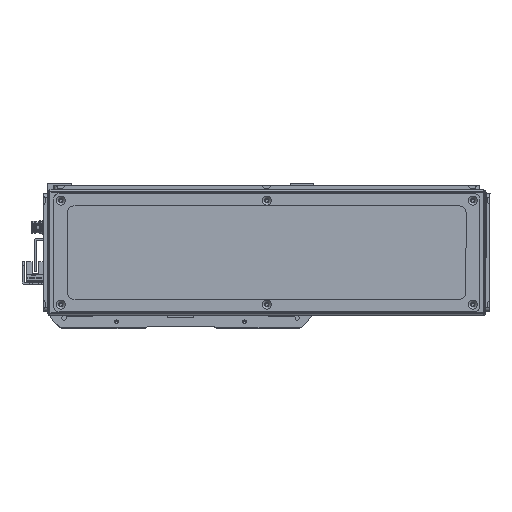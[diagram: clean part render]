
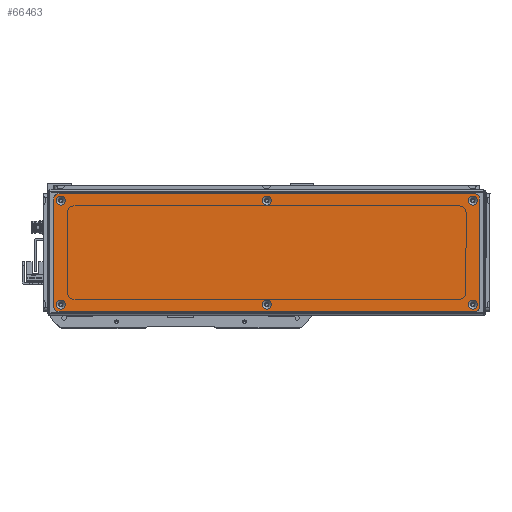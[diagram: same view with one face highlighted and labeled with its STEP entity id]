
A CAD part, front view. The second image highlights one B-rep face of the part: STEP entity #66463.
In plain terms, the highlighted planar face has unit normal (0, -1, 0).
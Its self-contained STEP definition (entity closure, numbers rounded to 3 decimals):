
#2917=FACE_BOUND('',#11347,.T.);
#2918=FACE_BOUND('',#11348,.T.);
#2919=FACE_BOUND('',#11349,.T.);
#2920=FACE_BOUND('',#11350,.T.);
#2921=FACE_BOUND('',#11351,.T.);
#2922=FACE_BOUND('',#11352,.T.);
#4227=CIRCLE('',#71481,3.45);
#4230=CIRCLE('',#71486,3.45);
#4233=CIRCLE('',#71491,3.45);
#4236=CIRCLE('',#71496,3.45);
#4239=CIRCLE('',#71501,3.45);
#4242=CIRCLE('',#71506,3.45);
#4245=CIRCLE('',#71511,3.);
#4247=CIRCLE('',#71514,3.);
#4248=CIRCLE('',#71515,3.);
#4249=CIRCLE('',#71516,3.);
#7540=FACE_OUTER_BOUND('',#11346,.T.);
#11346=EDGE_LOOP('',(#59217,#59218,#59219,#59220,#59221,#59222,#59223,#59224));
#11347=EDGE_LOOP('',(#59225));
#11348=EDGE_LOOP('',(#59226));
#11349=EDGE_LOOP('',(#59227));
#11350=EDGE_LOOP('',(#59228));
#11351=EDGE_LOOP('',(#59229));
#11352=EDGE_LOOP('',(#59230));
#18708=LINE('',#109186,#26174);
#18709=LINE('',#109190,#26175);
#18710=LINE('',#109194,#26176);
#18711=LINE('',#109197,#26177);
#26174=VECTOR('',#87796,10.);
#26175=VECTOR('',#87799,10.);
#26176=VECTOR('',#87802,10.);
#26177=VECTOR('',#87805,10.);
#32348=VERTEX_POINT('',#109116);
#32351=VERTEX_POINT('',#109126);
#32354=VERTEX_POINT('',#109136);
#32357=VERTEX_POINT('',#109146);
#32360=VERTEX_POINT('',#109156);
#32363=VERTEX_POINT('',#109166);
#32366=VERTEX_POINT('',#109176);
#32367=VERTEX_POINT('',#109177);
#32370=VERTEX_POINT('',#109185);
#32371=VERTEX_POINT('',#109187);
#32372=VERTEX_POINT('',#109189);
#32373=VERTEX_POINT('',#109191);
#32374=VERTEX_POINT('',#109193);
#32375=VERTEX_POINT('',#109195);
#41386=EDGE_CURVE('',#32348,#32348,#4227,.T.);
#41391=EDGE_CURVE('',#32351,#32351,#4230,.T.);
#41396=EDGE_CURVE('',#32354,#32354,#4233,.T.);
#41401=EDGE_CURVE('',#32357,#32357,#4236,.T.);
#41406=EDGE_CURVE('',#32360,#32360,#4239,.T.);
#41411=EDGE_CURVE('',#32363,#32363,#4242,.T.);
#41416=EDGE_CURVE('',#32366,#32367,#4245,.T.);
#41420=EDGE_CURVE('',#32366,#32370,#18708,.T.);
#41421=EDGE_CURVE('',#32371,#32370,#4247,.T.);
#41422=EDGE_CURVE('',#32371,#32372,#18709,.T.);
#41423=EDGE_CURVE('',#32373,#32372,#4248,.T.);
#41424=EDGE_CURVE('',#32373,#32374,#18710,.T.);
#41425=EDGE_CURVE('',#32375,#32374,#4249,.T.);
#41426=EDGE_CURVE('',#32375,#32367,#18711,.T.);
#59217=ORIENTED_EDGE('',*,*,#41416,.F.);
#59218=ORIENTED_EDGE('',*,*,#41420,.T.);
#59219=ORIENTED_EDGE('',*,*,#41421,.F.);
#59220=ORIENTED_EDGE('',*,*,#41422,.T.);
#59221=ORIENTED_EDGE('',*,*,#41423,.F.);
#59222=ORIENTED_EDGE('',*,*,#41424,.T.);
#59223=ORIENTED_EDGE('',*,*,#41425,.F.);
#59224=ORIENTED_EDGE('',*,*,#41426,.T.);
#59225=ORIENTED_EDGE('',*,*,#41386,.T.);
#59226=ORIENTED_EDGE('',*,*,#41391,.T.);
#59227=ORIENTED_EDGE('',*,*,#41396,.T.);
#59228=ORIENTED_EDGE('',*,*,#41401,.T.);
#59229=ORIENTED_EDGE('',*,*,#41406,.T.);
#59230=ORIENTED_EDGE('',*,*,#41411,.T.);
#63290=PLANE('',#71513);
#66463=ADVANCED_FACE('',(#7540,#2917,#2918,#2919,#2920,#2921,#2922),#63290,
 .T.);
#71481=AXIS2_PLACEMENT_3D('',#109117,#87716,#87717);
#71486=AXIS2_PLACEMENT_3D('',#109127,#87728,#87729);
#71491=AXIS2_PLACEMENT_3D('',#109137,#87740,#87741);
#71496=AXIS2_PLACEMENT_3D('',#109147,#87752,#87753);
#71501=AXIS2_PLACEMENT_3D('',#109157,#87764,#87765);
#71506=AXIS2_PLACEMENT_3D('',#109167,#87776,#87777);
#71511=AXIS2_PLACEMENT_3D('',#109178,#87788,#87789);
#71513=AXIS2_PLACEMENT_3D('',#109184,#87794,#87795);
#71514=AXIS2_PLACEMENT_3D('',#109188,#87797,#87798);
#71515=AXIS2_PLACEMENT_3D('',#109192,#87800,#87801);
#71516=AXIS2_PLACEMENT_3D('',#109196,#87803,#87804);
#87716=DIRECTION('center_axis',(0.,1.,0.));
#87717=DIRECTION('ref_axis',(1.,0.,0.));
#87728=DIRECTION('center_axis',(0.,1.,0.));
#87729=DIRECTION('ref_axis',(1.,0.,0.));
#87740=DIRECTION('center_axis',(0.,1.,0.));
#87741=DIRECTION('ref_axis',(1.,0.,0.));
#87752=DIRECTION('center_axis',(0.,1.,0.));
#87753=DIRECTION('ref_axis',(1.,0.,0.));
#87764=DIRECTION('center_axis',(0.,1.,0.));
#87765=DIRECTION('ref_axis',(1.,0.,0.));
#87776=DIRECTION('center_axis',(0.,1.,0.));
#87777=DIRECTION('ref_axis',(1.,0.,0.));
#87788=DIRECTION('center_axis',(0.,1.,0.));
#87789=DIRECTION('ref_axis',(-0.707,0.,0.707));
#87794=DIRECTION('center_axis',(0.,-1.,0.));
#87795=DIRECTION('ref_axis',(0.,0.,-1.));
#87796=DIRECTION('',(0.,0.,-1.));
#87797=DIRECTION('center_axis',(0.,1.,0.));
#87798=DIRECTION('ref_axis',(-0.707,0.,-0.707));
#87799=DIRECTION('',(1.,0.,0.));
#87800=DIRECTION('center_axis',(0.,1.,0.));
#87801=DIRECTION('ref_axis',(0.707,0.,-0.707));
#87802=DIRECTION('',(0.,0.,1.));
#87803=DIRECTION('center_axis',(0.,1.,0.));
#87804=DIRECTION('ref_axis',(0.707,0.,0.707));
#87805=DIRECTION('',(-1.,0.,0.));
#109116=CARTESIAN_POINT('',(151.05,-1.5,39.));
#109117=CARTESIAN_POINT('Origin',(154.5,-1.5,39.));
#109126=CARTESIAN_POINT('',(-3.45,-1.5,39.));
#109127=CARTESIAN_POINT('Origin',(0.,-1.5,39.));
#109136=CARTESIAN_POINT('',(-157.95,-1.5,39.));
#109137=CARTESIAN_POINT('Origin',(-154.5,-1.5,39.));
#109146=CARTESIAN_POINT('',(-157.95,-1.5,-39.));
#109147=CARTESIAN_POINT('Origin',(-154.5,-1.5,-39.));
#109156=CARTESIAN_POINT('',(-3.45,-1.5,-39.));
#109157=CARTESIAN_POINT('Origin',(0.,-1.5,-39.));
#109166=CARTESIAN_POINT('',(151.05,-1.5,-39.));
#109167=CARTESIAN_POINT('Origin',(154.5,-1.5,-39.));
#109176=CARTESIAN_POINT('',(-159.5,-1.5,41.));
#109177=CARTESIAN_POINT('',(-156.5,-1.5,44.));
#109178=CARTESIAN_POINT('Origin',(-156.5,-1.5,41.));
#109184=CARTESIAN_POINT('Origin',(0.,-1.5,0.));
#109185=CARTESIAN_POINT('',(-159.5,-1.5,-41.));
#109186=CARTESIAN_POINT('',(-159.5,-1.5,44.));
#109187=CARTESIAN_POINT('',(-156.5,-1.5,-44.));
#109188=CARTESIAN_POINT('Origin',(-156.5,-1.5,-41.));
#109189=CARTESIAN_POINT('',(156.5,-1.5,-44.));
#109190=CARTESIAN_POINT('',(-159.5,-1.5,-44.));
#109191=CARTESIAN_POINT('',(159.5,-1.5,-41.));
#109192=CARTESIAN_POINT('Origin',(156.5,-1.5,-41.));
#109193=CARTESIAN_POINT('',(159.5,-1.5,41.));
#109194=CARTESIAN_POINT('',(159.5,-1.5,-44.));
#109195=CARTESIAN_POINT('',(156.5,-1.5,44.));
#109196=CARTESIAN_POINT('Origin',(156.5,-1.5,41.));
#109197=CARTESIAN_POINT('',(159.5,-1.5,44.));
